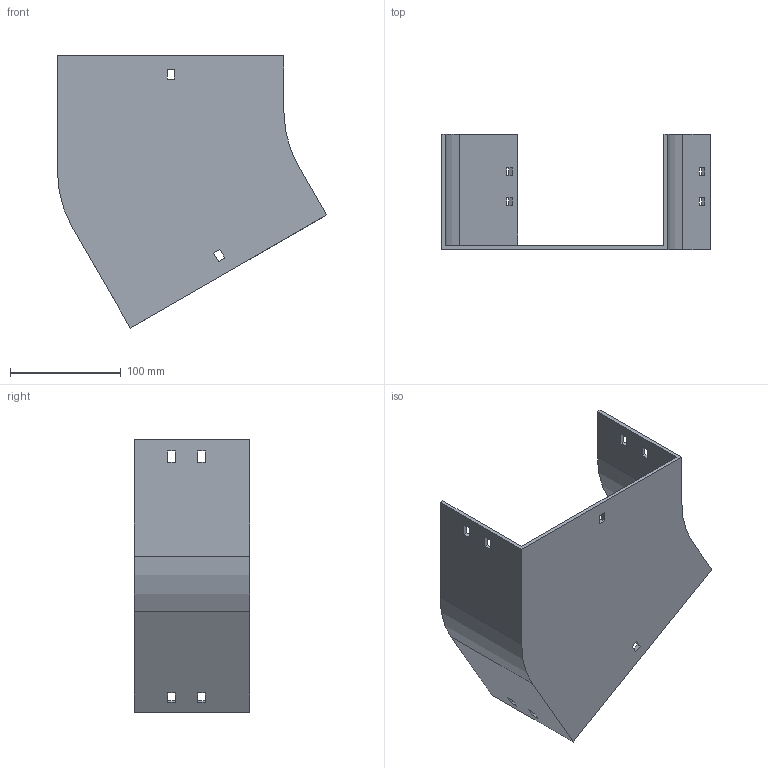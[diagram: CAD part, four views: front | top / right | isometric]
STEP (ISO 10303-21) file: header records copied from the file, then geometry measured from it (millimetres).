
FILE_DESCRIPTION (( 'STEP AP214' ), '1' );
FILE_NAME ('12B1D200.step', '2025-02-21T09:33:30', ( '' ), ( '' ), 'SwSTEP 2.0', 'SolidWorks 2023', '' );
FILE_SCHEMA (( 'AUTOMOTIVE_DESIGN' ));
Length unit declared in the file: millimetre
Products named in the file (1): 12B1D200
Bounding box: 242.4 x 104 x 245.3 mm (x, y, z)
Volume: 291961.7 mm3; surface area: 172288.4 mm2
Topology: 1 solids, 1 shells, 58 faces, 168 edges, 112 vertices
Faces by surface type: plane 54, cylinder 4
Entity records: 1943 total; most frequent: CARTESIAN_POINT 339, ORIENTED_EDGE 336, DIRECTION 294, EDGE_CURVE 168, LINE 160, VECTOR 160, VERTEX_POINT 112, EDGE_LOOP 78
